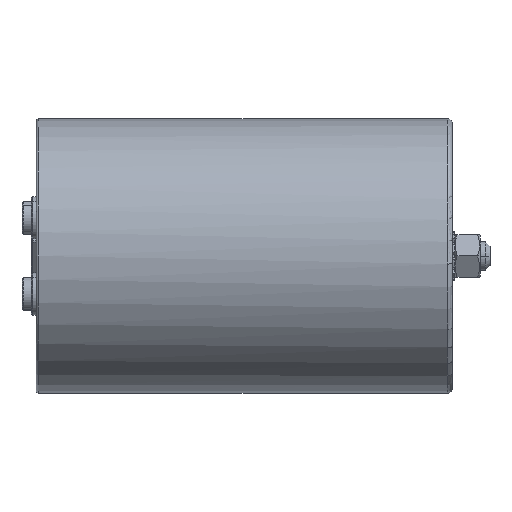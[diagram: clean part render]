
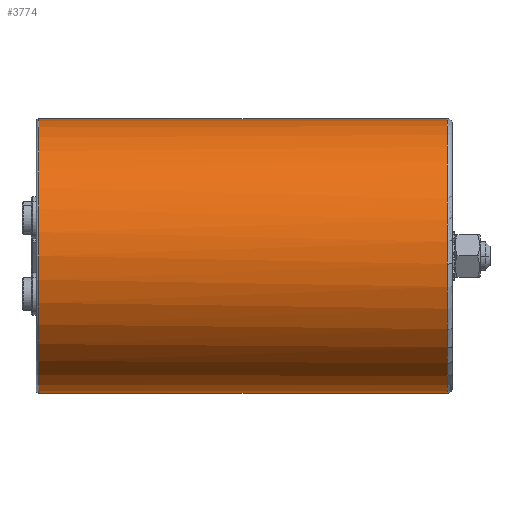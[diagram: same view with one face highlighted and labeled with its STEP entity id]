
A CAD part, left-side view. The second image highlights one B-rep face of the part: STEP entity #3774.
In plain terms, the highlighted cylindrical face has radius 58 mm (diameter 116 mm), a partial arc.
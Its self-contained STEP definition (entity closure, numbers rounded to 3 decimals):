
#183 = VERTEX_POINT ( 'NONE', #5358 ) ;
#239 = CARTESIAN_POINT ( 'NONE',  ( 0., -10., 58. ) ) ;
#247 = CIRCLE ( 'NONE', #3906, 58. ) ;
#328 = LINE ( 'NONE', #7392, #5773 ) ;
#611 = AXIS2_PLACEMENT_3D ( 'NONE', #3401, #3951, #2695 ) ;
#676 = EDGE_CURVE ( 'NONE', #7842, #7552, #328, .T. ) ;
#732 = AXIS2_PLACEMENT_3D ( 'NONE', #3549, #1583, #3473 ) ;
#1106 = EDGE_CURVE ( 'NONE', #3516, #183, #247, .T. ) ;
#1124 = CIRCLE ( 'NONE', #732, 58. ) ;
#1512 = ORIENTED_EDGE ( 'NONE', *, *, #3044, .T. ) ;
#1513 = DIRECTION ( 'NONE',  ( 0., 1., 0. ) ) ;
#1583 = DIRECTION ( 'NONE',  ( 0., 1., 0. ) ) ;
#1640 = CARTESIAN_POINT ( 'NONE',  ( 0., -1., 58. ) ) ;
#1717 = ORIENTED_EDGE ( 'NONE', *, *, #2958, .T. ) ;
#2212 = ORIENTED_EDGE ( 'NONE', *, *, #1106, .T. ) ;
#2241 = DIRECTION ( 'NONE',  ( 0., 1., 0. ) ) ;
#2255 = CARTESIAN_POINT ( 'NONE',  ( 0., -174., 0. ) ) ;
#2679 = CARTESIAN_POINT ( 'NONE',  ( 0., -1., -58. ) ) ;
#2695 = DIRECTION ( 'NONE',  ( 0., 0., 1. ) ) ;
#2718 = ORIENTED_EDGE ( 'NONE', *, *, #3720, .T. ) ;
#2781 = ORIENTED_EDGE ( 'NONE', *, *, #676, .F. ) ;
#2958 = EDGE_CURVE ( 'NONE', #183, #8270, #6771, .T. ) ;
#3004 = EDGE_LOOP ( 'NONE', ( #2212, #1717, #1512, #2781, #2718 ) ) ;
#3044 = EDGE_CURVE ( 'NONE', #8270, #7552, #4147, .T. ) ;
#3401 = CARTESIAN_POINT ( 'NONE',  ( 0., -1., 0. ) ) ;
#3473 = DIRECTION ( 'NONE',  ( -0.998, 0., -0.058 ) ) ;
#3516 = VERTEX_POINT ( 'NONE', #6850 ) ;
#3540 = DIRECTION ( 'NONE',  ( 0., 1., 0. ) ) ;
#3549 = CARTESIAN_POINT ( 'NONE',  ( 0., -174., 0. ) ) ;
#3720 = EDGE_CURVE ( 'NONE', #7842, #3516, #1124, .T. ) ;
#3774 = ADVANCED_FACE ( 'NONE', ( #6157 ), #7464, .T. ) ;
#3906 = AXIS2_PLACEMENT_3D ( 'NONE', #2255, #6105, #6720 ) ;
#3951 = DIRECTION ( 'NONE',  ( 0., -1., 0. ) ) ;
#4060 = AXIS2_PLACEMENT_3D ( 'NONE', #5452, #2241, #7379 ) ;
#4147 = CIRCLE ( 'NONE', #611, 58. ) ;
#5358 = CARTESIAN_POINT ( 'NONE',  ( 0., -174., 58. ) ) ;
#5452 = CARTESIAN_POINT ( 'NONE',  ( 0., -10., 0. ) ) ;
#5773 = VECTOR ( 'NONE', #3540, 1000. ) ;
#6105 = DIRECTION ( 'NONE',  ( 0., 1., 0. ) ) ;
#6157 = FACE_OUTER_BOUND ( 'NONE', #3004, .T. ) ;
#6493 = VECTOR ( 'NONE', #1513, 1000. ) ;
#6720 = DIRECTION ( 'NONE',  ( -0.998, 0., -0.058 ) ) ;
#6771 = LINE ( 'NONE', #239, #6493 ) ;
#6820 = CARTESIAN_POINT ( 'NONE',  ( 0., -174., -58. ) ) ;
#6850 = CARTESIAN_POINT ( 'NONE',  ( -57.901, -174., -3.391 ) ) ;
#7379 = DIRECTION ( 'NONE',  ( 0., 0., -1. ) ) ;
#7392 = CARTESIAN_POINT ( 'NONE',  ( 0., -10., -58. ) ) ;
#7464 = CYLINDRICAL_SURFACE ( 'NONE', #4060, 58. ) ;
#7552 = VERTEX_POINT ( 'NONE', #2679 ) ;
#7842 = VERTEX_POINT ( 'NONE', #6820 ) ;
#8270 = VERTEX_POINT ( 'NONE', #1640 ) ;
